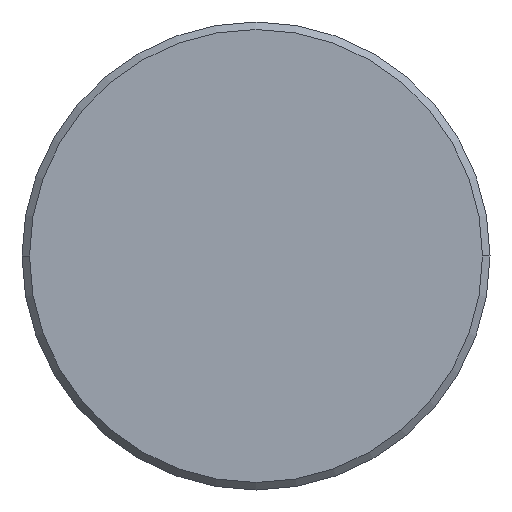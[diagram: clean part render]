
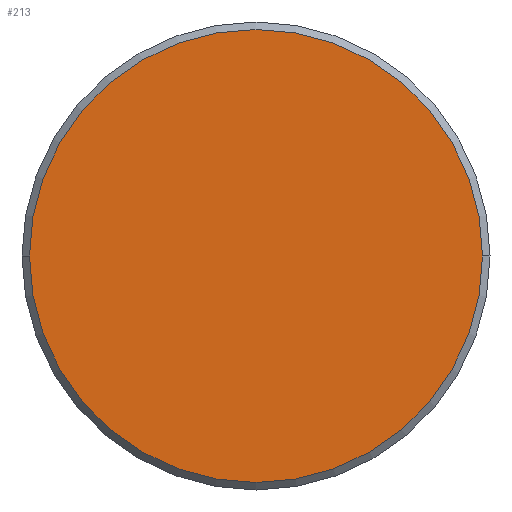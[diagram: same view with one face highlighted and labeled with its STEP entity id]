
A CAD part, left-side view. The second image highlights one B-rep face of the part: STEP entity #213.
In plain terms, the highlighted planar face has unit normal (-1, 0, 0).
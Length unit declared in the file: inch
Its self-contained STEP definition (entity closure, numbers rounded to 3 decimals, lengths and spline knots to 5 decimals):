
#10 = ORIENTED_EDGE ( 'NONE', *, *, #147, .T. ) ;
#25 = DIRECTION ( 'NONE',  ( -1., 0., 0. ) ) ;
#36 = EDGE_LOOP ( 'NONE', ( #74, #10 ) ) ;
#61 = FACE_OUTER_BOUND ( 'NONE', #36, .T. ) ;
#74 = ORIENTED_EDGE ( 'NONE', *, *, #216, .T. ) ;
#77 = CARTESIAN_POINT ( 'NONE',  ( 0., -0.121, 0. ) ) ;
#81 = AXIS2_PLACEMENT_3D ( 'NONE', #252, #221, #256 ) ;
#96 = CIRCLE ( 'NONE', #81, 0.121 ) ;
#99 = CARTESIAN_POINT ( 'NONE',  ( 0., 0., 0. ) ) ;
#101 = CARTESIAN_POINT ( 'NONE',  ( 0., 0., 0. ) ) ;
#111 = CIRCLE ( 'NONE', #230, 0.121 ) ;
#143 = VERTEX_POINT ( 'NONE', #363 ) ;
#147 = EDGE_CURVE ( 'NONE', #257, #143, #96, .T. ) ;
#190 = DIRECTION ( 'NONE',  ( 0., -1., 0. ) ) ;
#191 = DIRECTION ( 'NONE',  ( 0., -1., 0. ) ) ;
#192 = DIRECTION ( 'NONE',  ( -1., 0., 0. ) ) ;
#213 = ADVANCED_FACE ( 'NONE', ( #61 ), #259, .T. ) ;
#216 = EDGE_CURVE ( 'NONE', #143, #257, #111, .T. ) ;
#221 = DIRECTION ( 'NONE',  ( -1., 0., 0. ) ) ;
#230 = AXIS2_PLACEMENT_3D ( 'NONE', #101, #25, #190 ) ;
#249 = AXIS2_PLACEMENT_3D ( 'NONE', #99, #192, #191 ) ;
#252 = CARTESIAN_POINT ( 'NONE',  ( 0., 0., 0. ) ) ;
#256 = DIRECTION ( 'NONE',  ( 0., -1., 0. ) ) ;
#257 = VERTEX_POINT ( 'NONE', #77 ) ;
#259 = PLANE ( 'NONE',  #249 ) ;
#363 = CARTESIAN_POINT ( 'NONE',  ( 0., 0.121, 0. ) ) ;
